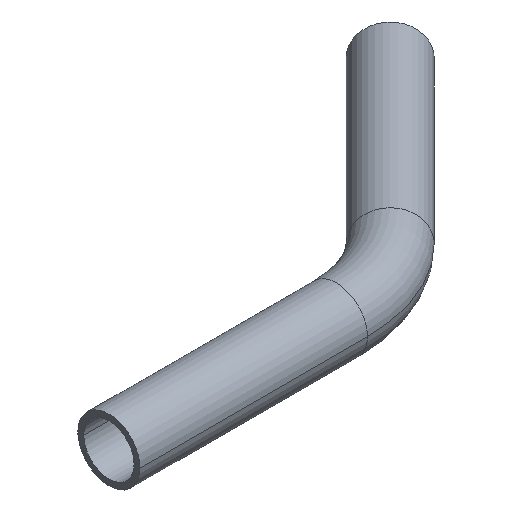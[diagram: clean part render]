
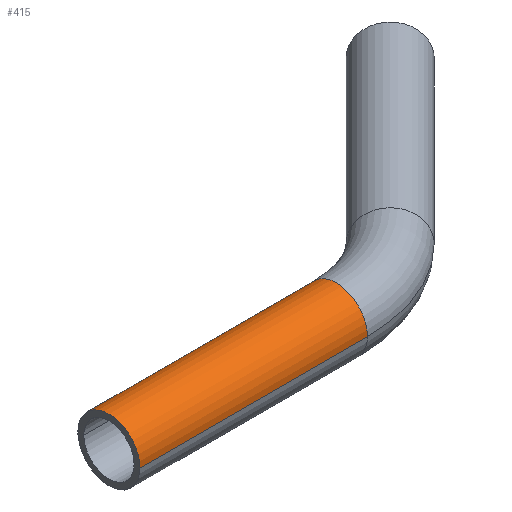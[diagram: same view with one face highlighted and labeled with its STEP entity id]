
A CAD part, isometric view. The second image highlights one B-rep face of the part: STEP entity #415.
In plain terms, the highlighted cylindrical face has radius 45.2 mm (diameter 90.4 mm), a partial arc.
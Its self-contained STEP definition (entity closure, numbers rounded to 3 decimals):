
#29 = EDGE_CURVE ( 'NONE', #308, #90, #170, .T. ) ;
#41 = EDGE_CURVE ( 'NONE', #308, #202, #201, .T. ) ;
#43 = AXIS2_PLACEMENT_3D ( 'NONE', #289, #181, #187 ) ;
#46 = AXIS2_PLACEMENT_3D ( 'NONE', #352, #85, #271 ) ;
#52 = EDGE_CURVE ( 'NONE', #90, #276, #337, .T. ) ;
#53 = EDGE_CURVE ( 'NONE', #202, #276, #296, .T. ) ;
#58 = AXIS2_PLACEMENT_3D ( 'NONE', #278, #330, #246 ) ;
#85 = DIRECTION ( 'NONE',  ( 1., 0., 0. ) ) ;
#86 = CARTESIAN_POINT ( 'NONE',  ( -70.904, 32.02, 0. ) ) ;
#90 = VERTEX_POINT ( 'NONE', #265 ) ;
#113 = ORIENTED_EDGE ( 'NONE', *, *, #29, .F. ) ;
#114 = CARTESIAN_POINT ( 'NONE',  ( -401.617, -58.38, 0. ) ) ;
#170 = CIRCLE ( 'NONE', #46, 45.2 ) ;
#181 = DIRECTION ( 'NONE',  ( 1., 0., 0. ) ) ;
#187 = DIRECTION ( 'NONE',  ( 0., 0., -1. ) ) ;
#201 = LINE ( 'NONE', #345, #362 ) ;
#202 = VERTEX_POINT ( 'NONE', #320 ) ;
#205 = ORIENTED_EDGE ( 'NONE', *, *, #41, .T. ) ;
#242 = EDGE_LOOP ( 'NONE', ( #113, #205, #281, #304 ) ) ;
#246 = DIRECTION ( 'NONE',  ( 0., -1., 0. ) ) ;
#250 = CARTESIAN_POINT ( 'NONE',  ( -70.904, -58.38, 0. ) ) ;
#254 = VECTOR ( 'NONE', #323, 1000. ) ;
#265 = CARTESIAN_POINT ( 'NONE',  ( -70.904, -58.38, 0. ) ) ;
#271 = DIRECTION ( 'NONE',  ( 0., 0., -1. ) ) ;
#276 = VERTEX_POINT ( 'NONE', #114 ) ;
#278 = CARTESIAN_POINT ( 'NONE',  ( -70.904, -13.18, 0. ) ) ;
#281 = ORIENTED_EDGE ( 'NONE', *, *, #53, .T. ) ;
#289 = CARTESIAN_POINT ( 'NONE',  ( -401.617, -13.18, 0. ) ) ;
#296 = CIRCLE ( 'NONE', #43, 45.2 ) ;
#297 = DIRECTION ( 'NONE',  ( -1., 0., 0. ) ) ;
#304 = ORIENTED_EDGE ( 'NONE', *, *, #52, .F. ) ;
#308 = VERTEX_POINT ( 'NONE', #86 ) ;
#320 = CARTESIAN_POINT ( 'NONE',  ( -401.617, 32.02, 0. ) ) ;
#323 = DIRECTION ( 'NONE',  ( -1., 0., 0. ) ) ;
#330 = DIRECTION ( 'NONE',  ( -1., 0., 0. ) ) ;
#337 = LINE ( 'NONE', #250, #254 ) ;
#345 = CARTESIAN_POINT ( 'NONE',  ( -70.904, 32.02, 0. ) ) ;
#352 = CARTESIAN_POINT ( 'NONE',  ( -70.904, -13.18, 0. ) ) ;
#362 = VECTOR ( 'NONE', #297, 1000. ) ;
#385 = CYLINDRICAL_SURFACE ( 'NONE', #58, 45.2 ) ;
#402 = FACE_OUTER_BOUND ( 'NONE', #242, .T. ) ;
#415 = ADVANCED_FACE ( 'NONE', ( #402 ), #385, .T. ) ;
